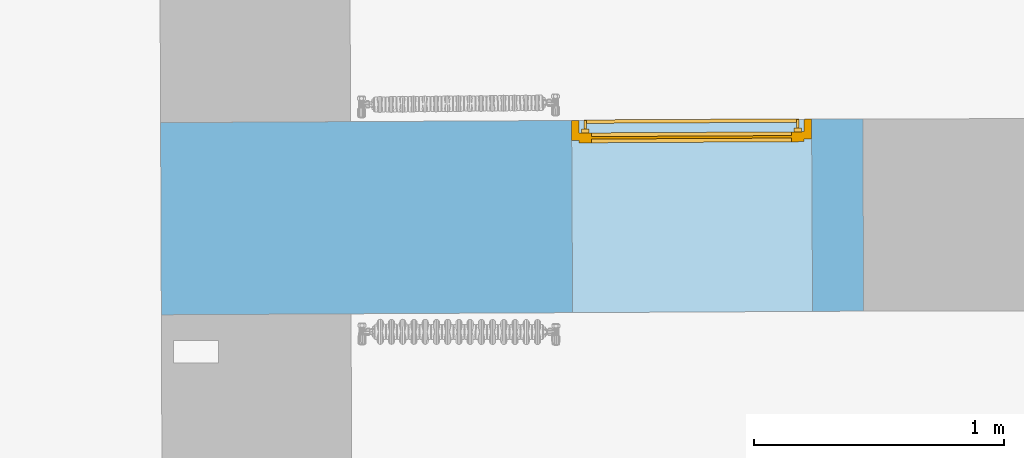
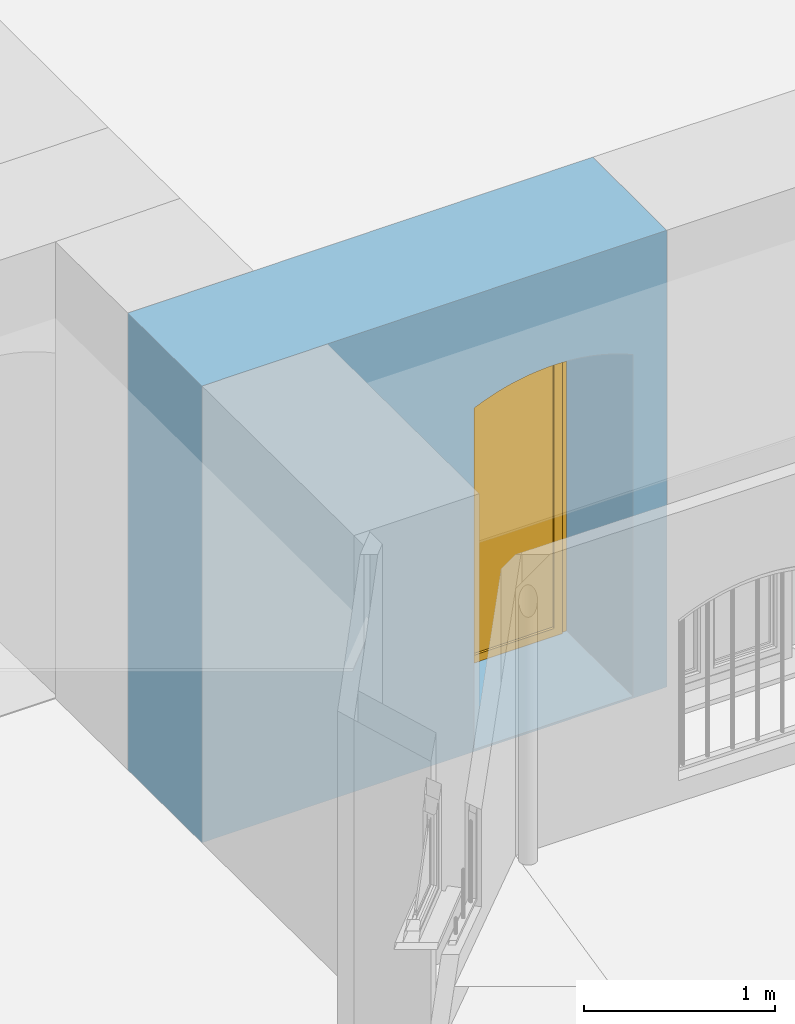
# One storey, part 94 of 133: 1 door, 1 opening, plus 1 element that does not belong to this part.
"""IFC2X3 building model written with IfcOpenShell, lengths in centimetres."""

import ifcopenshell
import ifcopenshell.guid

model = None  # the IFC model being written
_history = None  # IfcOwnerHistory: only IFC2X3 demands one
_inside = {}  # id of a spatial element -> (the spatial element, [elements in it])
_under = {}  # id of a project, library or spatial element -> (it, [spatial elements below it])
_declared = {}  # id of a project -> (the project, [libraries it declares])
_typed = {}  # id of a type object -> (the type object, [elements of that type])
_made_of = {}  # id of a material, layer set ... -> (it, [elements and type objects made of it])


def new_model(schema):
    """Start an empty IFC model of exactly this schema.

    Asked for "IFC4X3", IfcOpenShell would pick the latest addendum, in which some entities
    have other attributes; the version numbers below select the first issue.
    IFC2X3 requires an IfcOwnerHistory on every rooted entity: one is made here for all.
    """
    global model, _history
    if schema == "IFC4X3":
        model = ifcopenshell.file(schema_version=(4, 3, 0, 0))
    else:
        model = ifcopenshell.file(schema=schema)
    _inside.clear()
    _under.clear()
    _declared.clear()
    _typed.clear()
    _made_of.clear()
    _history = None
    if model.schema == "IFC2X3":
        org = make("IfcOrganization", Name="unknown")
        user = make(
            "IfcPersonAndOrganization",
            ThePerson=make("IfcPerson", FamilyName="unknown"),
            TheOrganization=org,
        )
        app = make(
            "IfcApplication",
            ApplicationDeveloper=org,
            Version="unknown",
            ApplicationFullName="unknown",
            ApplicationIdentifier="unknown",
        )
        _history = make(
            "IfcOwnerHistory",
            OwningUser=user,
            OwningApplication=app,
            ChangeAction="ADDED",
            CreationDate=0,
        )
    return model


def make(cls, **values):
    """One entity of the class cls with the attributes given. An attribute that is None is left unset."""
    return model.create_entity(
        cls, **{name: value for name, value in values.items() if value is not None}
    )


def entity(cls, *values):
    """Any entity or typed value of the class cls, its attributes in the order of the schema. None: left unset."""
    e = model.create_entity(cls)
    for i, value in enumerate(values):
        if value is not None:
            e[i] = value
    return e


def rooted(cls, **values):
    """An entity with a GlobalId (a new one), such as an element, a storey or a relation."""
    return make(cls, GlobalId=ifcopenshell.guid.new(), OwnerHistory=_history, **values)


def si_unit(unit_type, name, prefix=None):
    """IfcSIUnit, for example si_unit("LENGTHUNIT", "METRE", prefix="MILLI")."""
    return make("IfcSIUnit", UnitType=unit_type, Prefix=prefix, Name=name)


def converted_unit(unit_type, name, factor, base, dimensions=None, offset=None):
    """IfcConversionBasedUnit, such as the inch: factor (a typed value) times the base unit."""
    return make(
        "IfcConversionBasedUnit"
        if offset is None
        else "IfcConversionBasedUnitWithOffset",
        ConversionOffset=offset,
        Dimensions=None
        if dimensions is None
        else entity("IfcDimensionalExponents", *dimensions),
        UnitType=unit_type,
        Name=name,
        ConversionFactor=make(
            "IfcMeasureWithUnit", ValueComponent=factor, UnitComponent=base
        ),
    )


def assignment(units):
    """IfcUnitAssignment: the units of a project."""
    return None if units is None else make("IfcUnitAssignment", Units=units)


def point(xyz):
    """IfcCartesianPoint."""
    return None if xyz is None else make("IfcCartesianPoint", Coordinates=xyz)


def direction(xyz):
    """IfcDirection."""
    return None if xyz is None else make("IfcDirection", DirectionRatios=xyz)


def frame(location, z_axis=None, x_axis=None):
    """IfcAxis2Placement3D, a coordinate frame: its origin and axes. An axis left out is left unset."""
    return make(
        "IfcAxis2Placement3D",
        Location=point(location),
        Axis=direction(z_axis),
        RefDirection=direction(x_axis),
    )


def frame_2d(location, x_axis=None):
    """IfcAxis2Placement2D, a coordinate frame in the plane: its origin and x axis."""
    return make(
        "IfcAxis2Placement2D", Location=point(location), RefDirection=direction(x_axis)
    )


def origin():
    """The frame at (0, 0, 0) with its axes left unset."""
    return frame((0.0, 0.0, 0.0))


def origin_with_axes():
    """The frame at (0, 0, 0) with the z axis (0, 0, 1) and the x axis (1, 0, 0) written out."""
    return frame((0.0, 0.0, 0.0), z_axis=(0.0, 0.0, 1.0), x_axis=(1.0, 0.0, 0.0))


def place(relative_to, where):
    """IfcLocalPlacement: puts the frame where relative to a parent placement (None: the world)."""
    return make(
        "IfcLocalPlacement", PlacementRelTo=relative_to, RelativePlacement=where
    )


def context(
    kind, dimensions, precision=None, world=None, true_north=None, identifier=None
):
    """IfcGeometricRepresentationContext, for example the 3D "Model" context."""
    return make(
        "IfcGeometricRepresentationContext",
        ContextIdentifier=identifier,
        ContextType=kind,
        CoordinateSpaceDimension=dimensions,
        Precision=precision,
        WorldCoordinateSystem=world,
        TrueNorth=true_north,
    )


def subcontext(parent, identifier, kind, view, scale=None):
    """IfcGeometricRepresentationSubContext, for example "Body" below "Model"."""
    return make(
        "IfcGeometricRepresentationSubContext",
        ContextIdentifier=identifier,
        ContextType=kind,
        ParentContext=parent,
        TargetScale=scale,
        TargetView=view,
    )


def project(units=None, contexts=None):
    """IfcProject with its units and contexts."""
    return rooted(
        "IfcProject",
        Name="project",
        RepresentationContexts=contexts,
        UnitsInContext=assignment(units),
    )


def spatial(cls, under=None, at=None, **own):
    """A site, building, storey or space (cls), placed at a placement, below another one or the project."""
    s = rooted(cls, ObjectPlacement=at, **own)
    if under is not None:
        _under.setdefault(under.id(), (under, []))[1].append(s)
    return s


def polyline(points):
    """IfcPolyline through the points."""
    return make("IfcPolyline", Points=[point(p) for p in points])


def circle_curve(where, radius):
    """IfcCircle in the frame where."""
    return make("IfcCircle", Position=where, Radius=radius)


def trimmed(basis, trim1, trim2, sense, master):
    """IfcTrimmedCurve: the piece of a basis curve between two trims."""
    return make(
        "IfcTrimmedCurve",
        BasisCurve=basis,
        Trim1=trim1,
        Trim2=trim2,
        SenseAgreement=sense,
        MasterRepresentation=master,
    )


def segment(curve, same_sense, transition):
    """IfcCompositeCurveSegment."""
    return make(
        "IfcCompositeCurveSegment",
        Transition=transition,
        SameSense=same_sense,
        ParentCurve=curve,
    )


def composite_curve(segments, self_intersect=None):
    """IfcCompositeCurve: segments joined end to end."""
    return make("IfcCompositeCurve", Segments=segments, SelfIntersect=self_intersect)


def outline(outer, holes=None, kind="AREA"):
    """IfcArbitraryClosedProfileDef: a profile drawn as a closed curve; with holes, ...WithVoids."""
    if holes is None:
        return make("IfcArbitraryClosedProfileDef", ProfileType=kind, OuterCurve=outer)
    return make(
        "IfcArbitraryProfileDefWithVoids",
        ProfileType=kind,
        OuterCurve=outer,
        InnerCurves=holes,
    )


def extrude(swept, where, along, depth):
    """IfcExtrudedAreaSolid: the profile swept, set in the frame where, extruded along a direction by depth."""
    return make(
        "IfcExtrudedAreaSolid",
        SweptArea=swept,
        Position=where,
        ExtrudedDirection=direction(along),
        Depth=depth,
    )


def faces_of(points, faces, orient=None, outer=None):
    """IfcFace entities. A face is a list of loops; a loop is a list of indices into points, from 0.

    orient and outer hold one flag for each loop. By default every Orientation is true, the
    first loop of a face is its IfcFaceOuterBound and the others are IfcFaceBound.
    """
    made = []
    for i, loops in enumerate(faces):
        bounds = []
        for j, loop in enumerate(loops):
            is_outer = j == 0 if outer is None else outer[i][j]
            bounds.append(
                make(
                    "IfcFaceOuterBound" if is_outer else "IfcFaceBound",
                    Bound=make("IfcPolyLoop", Polygon=[points[k] for k in loop]),
                    Orientation=True if orient is None else orient[i][j],
                )
            )
        made.append(make("IfcFace", Bounds=bounds))
    return made


def faceted_brep(points, faces, orient=None, outer=None, voids=None):
    """IfcFacetedBrep: a solid bounded by flat faces; with voids (closed shells), ...WithVoids."""
    shared = [point(p) for p in points]
    hull = make("IfcClosedShell", CfsFaces=faces_of(shared, faces, orient, outer))
    if voids is None:
        return make("IfcFacetedBrep", Outer=hull)
    return make(
        "IfcFacetedBrepWithVoids",
        Outer=hull,
        Voids=[
            make(cls, CfsFaces=faces_of(shared, fs, o, b)) for cls, fs, o, b in voids
        ],
    )


def shape(context_of_items, identifier, shape_type, items):
    """IfcShapeRepresentation: the items that make up one representation, for example the "Body"."""
    return make(
        "IfcShapeRepresentation",
        ContextOfItems=context_of_items,
        RepresentationIdentifier=identifier,
        RepresentationType=shape_type,
        Items=items,
    )


def source(mapping_origin, context_of_items, identifier, shape_type, items):
    """IfcRepresentationMap: a shape defined once, which mapped items show again and again."""
    return make(
        "IfcRepresentationMap",
        MappingOrigin=mapping_origin,
        MappedRepresentation=shape(context_of_items, identifier, shape_type, items),
    )


def transform(
    local_origin,
    x_axis=None,
    y_axis=None,
    z_axis=None,
    scale=None,
    scale2=None,
    scale3=None,
    uniform=True,
):
    """IfcCartesianTransformationOperator3D, or its non-uniform kind. x_axis, y_axis, z_axis: its Axis1, 2, 3."""
    if uniform:
        return make(
            "IfcCartesianTransformationOperator3D",
            Axis1=direction(x_axis),
            Axis2=direction(y_axis),
            LocalOrigin=point(local_origin),
            Scale=scale,
            Axis3=direction(z_axis),
        )
    return make(
        "IfcCartesianTransformationOperator3DnonUniform",
        Axis1=direction(x_axis),
        Axis2=direction(y_axis),
        LocalOrigin=point(local_origin),
        Scale=scale,
        Axis3=direction(z_axis),
        Scale2=scale2,
        Scale3=scale3,
    )


def mapped(mapping_source, mapping_target):
    """IfcMappedItem: shows the shape of a source again, moved by a transform."""
    return make(
        "IfcMappedItem", MappingSource=mapping_source, MappingTarget=mapping_target
    )


def material(Name=None, Category=None):
    """IfcMaterial."""
    return make("IfcMaterial", Name=Name, Category=Category)


def material_list(materials):
    """IfcMaterialList."""
    return make("IfcMaterialList", Materials=materials)


def layer(
    of_material, thickness, ventilated=None, Name=None, Category=None, Priority=None
):
    """IfcMaterialLayer: one layer of a wall or slab, of a material (None: an air gap)."""
    return make(
        "IfcMaterialLayer",
        Material=of_material,
        LayerThickness=thickness,
        IsVentilated=ventilated,
        Name=Name,
        Category=Category,
        Priority=Priority,
    )


def layer_set(layers, Name=None):
    """IfcMaterialLayerSet."""
    return make("IfcMaterialLayerSet", MaterialLayers=layers, LayerSetName=Name)


def layer_usage(for_layer_set, set_direction, sense, offset, extent=None):
    """IfcMaterialLayerSetUsage: how a layer set lies in its element."""
    return make(
        "IfcMaterialLayerSetUsage",
        ForLayerSet=for_layer_set,
        LayerSetDirection=set_direction,
        DirectionSense=sense,
        OffsetFromReferenceLine=offset,
        ReferenceExtent=extent,
    )


def made_of(thing, what):
    """Note that an element or type object is made of a material, layer set ...; save() writes the relation."""
    if what is not None:
        _made_of.setdefault(what.id(), (what, []))[1].append(thing)
    return thing


def type_object(cls, material=None, **own):
    """A type object (cls), such as IfcWallType, which elements share."""
    return made_of(rooted(cls, **own), material)


def element(
    cls,
    number,
    at=None,
    inside=None,
    cuts=None,
    type_object=None,
    material=None,
    context=None,
    identifier="Body",
    shape_type=None,
    held_by="IfcProductDefinitionShape",
    body=None,
    shapes=None,
    **own,
):
    """One element of the class cls, such as IfcWall. Its Tag is "e" and its number.

    at: its placement. inside: the storey or other place that contains it. cuts: it is an
    opening in that element (IfcRelVoidsElement). A single representation is given by context,
    identifier, shape_type and body (its items); several are given by shapes. held_by: the class
    of the entity that holds the representations. save() writes the other relations.
    """
    e = rooted(cls, Tag="e%d" % number, ObjectPlacement=at, **own)
    if body is not None:
        shapes = [shape(context, identifier, shape_type, body)]
    if shapes is not None:
        e.Representation = make(held_by, Representations=shapes)
    if inside is not None:
        _inside.setdefault(inside.id(), (inside, []))[1].append(e)
    if cuts is not None:
        rooted(
            "IfcRelVoidsElement", RelatingBuildingElement=cuts, RelatedOpeningElement=e
        )
    if type_object is not None:
        _typed.setdefault(type_object.id(), (type_object, []))[1].append(e)
    return made_of(e, material)


def fill(opening, filler):
    """IfcRelFillsElement: the door or window that sits in an opening."""
    return rooted(
        "IfcRelFillsElement",
        RelatingOpeningElement=opening,
        RelatedBuildingElement=filler,
    )


def aggregate(whole, parts):
    """IfcRelAggregates: a whole, such as a stair, and the parts it consists of."""
    return rooted("IfcRelAggregates", RelatingObject=whole, RelatedObjects=parts)


def save(model, path):
    """Write the relations noted so far, then the file.

    IfcRelAggregates (storeys below a building ...), IfcRelContainedInSpatialStructure (elements
    in a storey), IfcRelDefinesByType, IfcRelAssociatesMaterial and IfcRelDeclares: one each for
    every whole, place, type object, material and project.
    """
    for whole, parts in _under.values():
        aggregate(whole, parts)
    for where, things in _inside.values():
        rooted(
            "IfcRelContainedInSpatialStructure",
            RelatedElements=things,
            RelatingStructure=where,
        )
    for kind, things in _typed.values():
        rooted("IfcRelDefinesByType", RelatedObjects=things, RelatingType=kind)
    for what, things in _made_of.values():
        rooted("IfcRelAssociatesMaterial", RelatedObjects=things, RelatingMaterial=what)
    for by, libraries in _declared.values():
        rooted("IfcRelDeclares", RelatingContext=by, RelatedDefinitions=libraries)
    model.write(path)


model = new_model("IFC2X3")

# Units and contexts
model_context = context("Model", 3, precision=0.0001, world=origin(), true_north=direction((0.225632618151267, 0.974212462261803, 0.0)))
body_context = subcontext(model_context, "Body", "Model", "MODEL_VIEW")
footprint_context = subcontext(model_context, "FootPrint", "Model", "MODEL_VIEW")
profile_context = subcontext(model_context, "Profile", "Model", "MODEL_VIEW")
ifc_project = project(units=[si_unit("LENGTHUNIT", "METRE", prefix="CENTI"), si_unit("AREAUNIT", "SQUARE_METRE", prefix="CENTI"), si_unit("VOLUMEUNIT", "CUBIC_METRE", prefix="CENTI"), converted_unit("PLANEANGLEUNIT", "DEGREE", entity("IfcRatioMeasure", 0.0174532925), si_unit("PLANEANGLEUNIT", "RADIAN"), dimensions=[0, 0, 0, 0, 0, 0, 0])], contexts=[model_context])

# Site, building, storey
site_placement = place(None, origin_with_axes())
site = spatial("IfcSite", under=ifc_project, at=site_placement, Name="Default Site", CompositionType="ELEMENT")
building_placement = place(site_placement, origin_with_axes())
building = spatial("IfcBuilding", under=site, at=building_placement, Name="Default Building", CompositionType="ELEMENT")
storey_placement = place(building_placement, frame((0.0, 0.0, -291.400371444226), z_axis=(0.0, 0.0, 1.0), x_axis=(1.0, 0.0, 0.0)))
storey = spatial("IfcBuildingStorey", under=building, at=storey_placement, Name="Rez-de-Jardin", CompositionType="ELEMENT", Elevation=-291.400371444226)

# Wall, opening, door
ifc_material_1 = material(Name="<aucun>")
ifc_layer = layer(ifc_material_1, 77.0)
ifc_layer_set = layer_set([ifc_layer], Name="default")
ifc_layer_usage = layer_usage(ifc_layer_set, "AXIS2", "POSITIVE", -38.5)
wall_type = type_object("IfcWallType", Name="default 770", PredefinedType="NOTDEFINED", material=ifc_layer_set)
wall_placement = place(storey_placement, frame((-641.069749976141, -714.825087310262, -1.94511073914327e-11), z_axis=(0.0, 0.0, 1.0), x_axis=(0.999986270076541, 0.0052401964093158, 0.0)))
wall = element("IfcWallStandardCase", 1, at=wall_placement, inside=storey, type_object=wall_type, material=ifc_layer_usage, Name="Enveloppe 53121", context=body_context, shape_type="SweptSolid", body=[
    extrude(outline(polyline([(-76.0000805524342, 38.4999999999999), (-76.0928380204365, -38.5), (205.202580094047, -38.4967732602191), (205.461895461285, 38.5027901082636), (-76.0000805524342, 38.4999999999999)])), frame((0.0, 0.0, 1.33226762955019e-13), z_axis=(0.0, 0.0, 1.0), x_axis=(1.0, 0.0, 0.0)), (0.0, 0.0, 1.0), 291.413221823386),
])
opening_placement = place(wall_placement, frame((88.6864367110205, 1.13686837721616e-13, 1.31164938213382), z_axis=(0.0, 0.0, 1.0), x_axis=(-1.0, -3.49546780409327e-16, 0.0)))
cartesian_point_1 = entity("IfcCartesianPoint", [0.0, 0.0, 218.0])
cartesian_point_2 = entity("IfcCartesianPoint", [-96.1394083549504, 0.0, 218.0])
cartesian_point_3 = entity("IfcCartesianPoint", [-96.1394083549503, -38.5000000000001])
opening = element("IfcOpeningElement", 2, at=opening_placement, cuts=wall, Name="4294966327_12", ObjectType="Opening", shapes=[
    shape(body_context, "Body", "SweptSolid", [extrude(outline(composite_curve([segment(polyline([(0.0, 218.0), (0.0, 0.0), (96.1394083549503, 0.0), (96.1394083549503, 218.0)]), True, "CONTINUOUS"), segment(trimmed(circle_curve(frame_2d((48.0697041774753, 111.436495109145), x_axis=(1.0, 0.0)), 116.90370838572), [point((96.1394083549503, 218.0))], [point((0.0, 218.0))], True, "CARTESIAN"), True, "CONTINUOUS")], self_intersect=False)), frame((0.0, -48.5, 0.0), z_axis=(0.0, 1.0, 0.0), x_axis=(-1.0, 0.0, 0.0)), (0.0, 0.0, 1.0), 97.0)]),
    shape(profile_context, "Profile", "GeometricCurveSet", [entity("IfcGeometricCurveSet", [entity("IfcCompositeCurve", [entity("IfcCompositeCurveSegment", "CONTINUOUS", True, entity("IfcPolyline", [cartesian_point_1, entity("IfcCartesianPoint", [0.0, 0.0, 0.0]), entity("IfcCartesianPoint", [-96.1394083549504, 0.0, 0.0]), cartesian_point_2])), entity("IfcCompositeCurveSegment", "CONTINUOUS", True, entity("IfcTrimmedCurve", entity("IfcCircle", entity("IfcAxis2Placement3D", entity("IfcCartesianPoint", [-48.0697041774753, 0.0, 111.436495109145]), entity("IfcDirection", [0.0, 1.0, 0.0]), entity("IfcDirection", [1.0, 0.0, 0.0])), 116.90370838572), [cartesian_point_2], [cartesian_point_1], True, "CARTESIAN"))], False)])]),
    shape(footprint_context, "FootPrint", "GeometricCurveSet", [entity("IfcGeometricCurveSet", [entity("IfcPolyline", [cartesian_point_3, entity("IfcCartesianPoint", [0.0, -38.5000000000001]), entity("IfcCartesianPoint", [0.0, 38.5]), entity("IfcCartesianPoint", [-96.1394083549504, 38.5]), cartesian_point_3])])]),
])
ifc_material_2 = material(Name="Jaune pastel")
ifc_material_3 = material(Name="Aluminium satiné")
ifc_material_4 = material(Name="Blanc trafic")
ifc_material_list = material_list([ifc_material_2, ifc_material_3, ifc_material_4])
door_style = type_object("IfcDoorStyle", Name="Porte de Secours_1VB[1P plein]_IMP arc", ConstructionType="NOTDEFINED", OperationType="NOTDEFINED", ParameterTakesPrecedence=False, Sizeable=False, material=ifc_material_list)
shared_shape = source(origin_with_axes(), body_context, "Body", "Brep", [
    faceted_brep([(48.069703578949, 0.0, -3.99999991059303), (48.069703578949, 0.0, 3.99999991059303), (45.0697034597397, 0.0, 3.99999991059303), (45.0697034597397, 0.0, -3.99999991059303), (45.0697034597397, 215.960502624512, 3.99999991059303), (45.0697034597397, 215.960502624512, -3.99999991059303), (48.069703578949, 218.00000667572, 3.99999991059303), (48.069703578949, 218.00000667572, -3.99999991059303), (36.8645404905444, 219.206160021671, 3.99999991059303), (36.8645404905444, 219.206160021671, -3.99999991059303), (37.8365904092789, 222.047829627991, 3.99999991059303), (36.8645429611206, 219.206166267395, 3.99999991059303), (37.8365959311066, 222.047843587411, -3.99999991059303), (37.8365959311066, 222.047843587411, 3.99999991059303), (36.8645429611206, 219.206166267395, -3.99999991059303), (37.8365904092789, 222.047829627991, -3.99999991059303), (26.5676561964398, 222.195044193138, 3.99999991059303), (26.5676561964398, 222.195044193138, -3.99999991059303), (27.2681951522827, 225.115537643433, 3.99999991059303), (26.5676587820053, 222.195053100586, 3.99999991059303), (27.2681899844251, 225.115519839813, -3.99999991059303), (27.2681899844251, 225.115519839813, 3.99999991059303), (26.5676587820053, 222.195053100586, -3.99999991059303), (27.2681951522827, 225.115537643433, -3.99999991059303), (16.0353528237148, 224.202474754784, 3.99999991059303), (16.0353528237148, 224.202474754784, -3.99999991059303), (16.4581716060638, 227.175879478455, 3.99999991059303), (16.0353511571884, 224.202466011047, 3.99999991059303), (16.4581737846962, 227.175890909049, -3.99999991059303), (16.4581737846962, 227.175890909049, 3.99999991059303), (16.0353511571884, 224.202466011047, -3.99999991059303), (16.4581716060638, 227.175879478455, -3.99999991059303), (5.36095209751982, 225.210643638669, 3.99999991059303), (5.36095209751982, 225.210643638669, -3.99999991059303), (5.50231002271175, 228.210639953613, 3.99999991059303), (5.36095201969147, 225.210642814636, 3.99999991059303), (5.50231009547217, 228.210640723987, -3.99999991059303), (5.50231009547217, 228.210640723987, 3.99999991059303), (5.36095201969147, 225.210642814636, -3.99999991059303), (5.50231002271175, 228.210639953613, -3.99999991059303), (-5.36095201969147, 225.210642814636, 3.99999991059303), (-5.36095201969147, 225.210642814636, -3.99999991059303), (-5.50231002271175, 228.210639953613, 3.99999991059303), (-5.50231002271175, 228.210639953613, -3.99999991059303), (-16.0353510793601, 224.202465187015, 3.99999991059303), (-16.0353510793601, 224.202465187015, -3.99999991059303), (-16.4581716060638, 227.175879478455, 3.99999991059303), (-16.0353511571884, 224.202466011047, 3.99999991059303), (-16.4581715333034, 227.175878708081, -3.99999991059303), (-16.4581715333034, 227.175878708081, 3.99999991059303), (-16.0353511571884, 224.202466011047, -3.99999991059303), (-16.4581716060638, 227.175879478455, -3.99999991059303), (-26.5676571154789, 222.19504435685, 3.99999991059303), (-26.5676571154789, 222.19504435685, -3.99999991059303), (-27.2681951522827, 225.115537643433, 3.99999991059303), (-26.5676587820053, 222.195053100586, 3.99999991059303), (-27.2681929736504, 225.115526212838, -3.99999991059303), (-27.2681929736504, 225.115526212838, 3.99999991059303), (-26.5676587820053, 222.195053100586, -3.99999991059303), (-27.2681951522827, 225.115537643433, -3.99999991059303), (-36.8645455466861, 219.206175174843, 3.99999991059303), (-36.8645455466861, 219.206175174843, -3.99999991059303), (-37.8365904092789, 222.047829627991, 3.99999991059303), (-36.8645429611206, 219.206166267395, 3.99999991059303), (-37.8365955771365, 222.04784743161, -3.99999991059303), (-37.8365955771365, 222.04784743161, 3.99999991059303), (-36.8645429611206, 219.206166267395, -3.99999991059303), (-37.8365904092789, 222.047829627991, -3.99999991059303), (-45.0697059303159, 215.960508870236, 3.99999991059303), (-45.0697059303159, 215.960508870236, -3.99999991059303), (-48.069703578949, 218.00000667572, 3.99999991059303), (-45.0697034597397, 215.960502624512, 3.99999991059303), (-48.0696980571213, 217.9999927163, -3.99999991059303), (-48.0696980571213, 217.9999927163, 3.99999991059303), (-45.0697034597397, 215.960502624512, -3.99999991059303), (-48.069703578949, 218.00000667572, -3.99999991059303), (-45.0697034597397, 0.0, -3.99999991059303), (-45.0697034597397, 0.0, 3.99999991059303), (-48.069703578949, 0.0, 3.99999991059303), (-48.069703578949, 0.0, -3.99999991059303), (-45.0697034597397, 1.28418808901e-30, 3.99999991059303), (-45.0697034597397, 1.28418808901e-30, -3.99999991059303), (-48.069703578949, 5.65410615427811e-31, -3.99999991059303), (-48.069703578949, 5.65410615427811e-31, 3.99999991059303)], [[[0, 1, 2, 3]], [[3, 2, 4, 5]], [[2, 1, 6, 4]], [[1, 0, 7, 6]], [[0, 3, 5, 7]], [[5, 4, 8, 9]], [[4, 6, 10, 11]], [[6, 7, 12, 13]], [[7, 5, 14, 15]], [[14, 11, 16, 17]], [[11, 10, 18, 19]], [[10, 15, 20, 21]], [[15, 14, 22, 23]], [[22, 19, 24, 25]], [[19, 18, 26, 27]], [[18, 23, 28, 29]], [[23, 22, 30, 31]], [[30, 27, 32, 33]], [[27, 26, 34, 35]], [[26, 31, 36, 37]], [[31, 30, 38, 39]], [[38, 35, 40, 41]], [[35, 34, 42, 40]], [[34, 39, 43, 42]], [[39, 38, 41, 43]], [[41, 40, 44, 45]], [[40, 42, 46, 47]], [[42, 43, 48, 49]], [[43, 41, 50, 51]], [[50, 47, 52, 53]], [[47, 46, 54, 55]], [[46, 51, 56, 57]], [[51, 50, 58, 59]], [[58, 55, 60, 61]], [[55, 54, 62, 63]], [[54, 59, 64, 65]], [[59, 58, 66, 67]], [[66, 63, 68, 69]], [[63, 62, 70, 71]], [[62, 67, 72, 73]], [[67, 66, 74, 75]], [[76, 77, 78, 79]], [[74, 71, 80, 81]], [[71, 70, 78, 77]], [[70, 75, 82, 83]], [[75, 74, 76, 79]]]),
    faceted_brep([(-40.069705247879, 212.589716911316, 0.999999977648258), (-40.069705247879, 212.589716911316, 5.00000007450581), (-40.0697052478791, 5.00000007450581, 5.00000007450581), (-40.0697052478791, 5.00000007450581, 0.999999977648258), (-45.0697034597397, 216.044211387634, 5.00000007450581), (-45.0697034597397, 0.0, 5.00000007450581), (-40.069705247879, 5.00000007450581, 5.00000007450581), (-45.0697034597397, 216.044211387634, 0.999999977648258), (-45.0697034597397, 2.05390483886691e-29, 0.999999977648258), (-45.0697034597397, 2.05390483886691e-29, 5.00000007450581), (-40.069705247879, 5.00000007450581, 0.999999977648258), (-45.0697034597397, 0.0, 0.999999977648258), (40.069705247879, 5.0000000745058, 5.00000007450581), (40.069705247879, 5.0000000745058, 0.999999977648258), (45.0697034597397, 0.0, 5.00000007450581), (40.069705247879, 5.00000007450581, 5.00000007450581), (45.0697034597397, 0.0, 0.999999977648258), (40.069705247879, 5.00000007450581, 0.999999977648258), (40.069705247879, 212.589716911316, 5.00000007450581), (40.069705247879, 212.589716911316, 0.999999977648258), (45.0697034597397, 216.044211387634, 5.00000007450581), (45.0697034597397, 216.044211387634, 0.999999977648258), (33.8843774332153, 214.929265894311, 5.00000007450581), (33.8843774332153, 214.929265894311, 0.999999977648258), (35.4417443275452, 219.685912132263, 5.00000007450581), (33.8843792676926, 214.929270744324, 5.00000007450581), (35.4417426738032, 219.68590776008, 0.999999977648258), (35.4417426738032, 219.68590776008, 5.00000007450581), (33.8843792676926, 214.929270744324, 0.999999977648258), (35.4417443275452, 219.685912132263, 0.999999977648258), (24.4027557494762, 217.565715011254, 5.00000007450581), (24.4027557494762, 217.565715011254, 0.999999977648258), (25.5243331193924, 222.443532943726, 5.00000007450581), (24.4027525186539, 217.565703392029, 5.00000007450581), (25.5243325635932, 222.443530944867, 0.999999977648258), (25.5243325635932, 222.443530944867, 5.00000007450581), (24.4027525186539, 217.565703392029, 0.999999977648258), (25.5243331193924, 222.443532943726, 0.999999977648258), (14.7218283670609, 219.335387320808, 5.00000007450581), (14.7218283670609, 219.335387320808, 0.999999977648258), (15.3984621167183, 224.294567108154, 5.00000007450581), (14.7218286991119, 219.335389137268, 5.00000007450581), (15.398459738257, 224.294554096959, 0.999999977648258), (15.398459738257, 224.294554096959, 5.00000007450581), (14.7218286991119, 219.335389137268, 0.999999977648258), (15.3984621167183, 224.294567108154, 0.999999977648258), (4.92067253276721, 220.223859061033, 5.00000007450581), (4.92067253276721, 220.223859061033, 0.999999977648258), (5.14683239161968, 225.223851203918, 5.00000007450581), (4.92067225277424, 220.22385597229, 5.00000007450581), (5.14683428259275, 225.223872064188, 0.999999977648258), (5.14683428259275, 225.223872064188, 5.00000007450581), (4.92067225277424, 220.22385597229, 0.999999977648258), (5.14683239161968, 225.223851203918, 0.999999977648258), (-4.92067225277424, 220.22385597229, 5.00000007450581), (-4.92067225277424, 220.22385597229, 0.999999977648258), (-5.14683239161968, 225.223851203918, 5.00000007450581), (-5.14683239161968, 225.223851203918, 0.999999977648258), (-14.721828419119, 219.335386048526, 5.00000007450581), (-14.721828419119, 219.335386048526, 0.999999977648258), (-15.3984621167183, 224.294567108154, 5.00000007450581), (-14.7218286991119, 219.335389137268, 5.00000007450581), (-15.3984602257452, 224.294546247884, 0.999999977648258), (-15.3984602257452, 224.294546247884, 5.00000007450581), (-14.7218286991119, 219.335389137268, 0.999999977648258), (-15.3984621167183, 224.294567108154, 0.999999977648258), (-24.4027528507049, 217.565705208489, 5.00000007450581), (-24.4027528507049, 217.565705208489, 0.999999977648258), (-25.5243331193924, 222.443532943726, 5.00000007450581), (-24.4027525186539, 217.565703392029, 5.00000007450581), (-25.5243354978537, 222.443545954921, 0.999999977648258), (-25.5243354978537, 222.443545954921, 5.00000007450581), (-24.4027525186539, 217.565703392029, 0.999999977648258), (-25.5243331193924, 222.443532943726, 0.999999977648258), (-33.8843760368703, 214.929259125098, 5.00000007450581), (-33.8843760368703, 214.929259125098, 0.999999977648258), (-35.4417443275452, 219.685912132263, 5.00000007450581), (-33.8843792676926, 214.929270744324, 5.00000007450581), (-35.4417448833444, 219.685914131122, 0.999999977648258), (-35.4417448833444, 219.685914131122, 5.00000007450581), (-33.8843792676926, 214.929270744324, 0.999999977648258), (-35.4417443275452, 219.685912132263, 0.999999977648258), (-40.0697070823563, 212.589721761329, 5.00000007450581), (-40.0697070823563, 212.589721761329, 0.999999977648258), (-45.0697051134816, 216.044215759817, 0.999999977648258), (-45.0697051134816, 216.044215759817, 5.00000007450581)], [[[0, 1, 2, 3]], [[1, 4, 5, 6]], [[4, 7, 8, 9]], [[7, 0, 10, 11]], [[10, 6, 12, 13]], [[6, 5, 14, 15]], [[5, 11, 16, 14]], [[11, 10, 17, 16]], [[17, 15, 18, 19]], [[15, 14, 20, 18]], [[14, 16, 21, 20]], [[16, 17, 19, 21]], [[19, 18, 22, 23]], [[18, 20, 24, 25]], [[20, 21, 26, 27]], [[21, 19, 28, 29]], [[28, 25, 30, 31]], [[25, 24, 32, 33]], [[24, 29, 34, 35]], [[29, 28, 36, 37]], [[36, 33, 38, 39]], [[33, 32, 40, 41]], [[32, 37, 42, 43]], [[37, 36, 44, 45]], [[44, 41, 46, 47]], [[41, 40, 48, 49]], [[40, 45, 50, 51]], [[45, 44, 52, 53]], [[52, 49, 54, 55]], [[49, 48, 56, 54]], [[48, 53, 57, 56]], [[53, 52, 55, 57]], [[55, 54, 58, 59]], [[54, 56, 60, 61]], [[56, 57, 62, 63]], [[57, 55, 64, 65]], [[64, 61, 66, 67]], [[61, 60, 68, 69]], [[60, 65, 70, 71]], [[65, 64, 72, 73]], [[72, 69, 74, 75]], [[69, 68, 76, 77]], [[68, 73, 78, 79]], [[73, 72, 80, 81]], [[80, 77, 82, 83]], [[77, 76, 4, 1]], [[76, 81, 84, 85]], [[81, 80, 0, 7]]]),
    faceted_brep([(41.0697042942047, 113.022112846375, 0.999999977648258), (41.0697042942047, 103.022110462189, 0.999999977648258), (44.069704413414, 103.022110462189, 0.999999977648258), (44.069704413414, 113.022112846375, 0.999999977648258), (44.069704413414, 113.022112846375, -0.499999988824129), (44.069704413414, 103.022110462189, -0.499999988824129), (41.0697042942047, 103.022110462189, -0.499999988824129), (41.0697042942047, 113.022112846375, -0.499999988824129)], [[[0, 1, 2, 3]], [[4, 5, 6, 7]], [[3, 2, 5, 4]], [[2, 1, 6, 5]], [[1, 0, 7, 6]], [[0, 3, 4, 7]]]),
    faceted_brep([(42.0697033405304, 109.272110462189, -0.499999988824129), (42.0697033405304, 106.772112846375, -0.499999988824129), (43.0697053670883, 106.772112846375, -0.499999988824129), (43.0697053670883, 109.272110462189, -0.499999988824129), (43.0697053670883, 99.7721135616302, -3.95454540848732), (43.0697053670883, 99.7721135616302, -3.045454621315), (42.0697033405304, 99.7721135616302, -3.045454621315), (42.0697033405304, 99.7721135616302, -3.95454540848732), (42.0697033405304, 99.7721134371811, -3.04545427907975), (43.0697053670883, 99.7721134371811, -3.04545427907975), (43.0697053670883, 99.7721131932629, -3.95454439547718), (42.0697033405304, 99.7721131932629, -3.95454439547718)], [[[0, 1, 2, 3]], [[4, 5, 6, 7]], [[3, 2, 5, 4]], [[2, 1, 8, 9]], [[1, 0, 7, 6]], [[0, 3, 10, 11]]]),
    faceted_brep([(-44.069704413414, 113.022112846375, 0.999999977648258), (-44.069704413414, 103.022110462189, 0.999999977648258), (-41.0697042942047, 103.022110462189, 0.999999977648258), (-41.0697042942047, 113.022112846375, 0.999999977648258), (-41.0697042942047, 113.022112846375, -0.499999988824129), (-41.0697042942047, 103.022110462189, -0.499999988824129), (-44.069704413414, 103.022110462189, -0.499999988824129), (-44.069704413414, 113.022112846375, -0.499999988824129)], [[[0, 1, 2, 3]], [[4, 5, 6, 7]], [[3, 2, 5, 4]], [[2, 1, 6, 5]], [[1, 0, 7, 6]], [[0, 3, 4, 7]]]),
    faceted_brep([(-43.0697053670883, 109.272110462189, -0.499999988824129), (-43.0697053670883, 106.772112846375, -0.499999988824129), (-42.0697033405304, 106.772112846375, -0.499999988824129), (-42.0697033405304, 109.272110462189, -0.499999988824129), (-42.0697033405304, 99.7721135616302, -3.95454540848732), (-42.0697033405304, 99.7721135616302, -3.045454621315), (-43.0697053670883, 99.7721135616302, -3.045454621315), (-43.0697053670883, 99.7721135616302, -3.95454540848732), (-43.0697053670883, 99.7721134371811, -3.04545427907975), (-42.0697033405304, 99.7721134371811, -3.04545427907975), (-42.0697033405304, 99.7721131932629, -3.95454439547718), (-43.0697053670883, 99.7721131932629, -3.95454439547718)], [[[0, 1, 2, 3]], [[4, 5, 6, 7]], [[3, 2, 5, 4]], [[2, 1, 8, 9]], [[1, 0, 7, 6]], [[0, 3, 10, 11]]]),
    faceted_brep([(43.0697053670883, 96.7721104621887, -4.19999994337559), (43.0697053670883, 99.7721135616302, -4.19999994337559), (43.0697053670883, 99.7721135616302, -2.80000008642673), (43.0697053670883, 96.7721104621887, -2.80000008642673), (-43.0697053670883, 96.7721104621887, -2.80000008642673), (-43.0697053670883, 99.7721135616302, -2.80000008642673), (-43.0697053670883, 99.7721135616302, -4.19999994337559), (-43.0697053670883, 96.7721104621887, -4.19999994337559)], [[[0, 1, 2, 3]], [[4, 5, 6, 7]], [[3, 2, 5, 4]], [[2, 1, 6, 5]], [[1, 0, 7, 6]], [[0, 3, 4, 7]]]),
    faceted_brep([(-30.3673446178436, 216.020631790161, 2.5000000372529), (-20.3957319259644, 218.413281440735, 2.5000000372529), (-10.2432772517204, 219.857406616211, 2.5000000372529), (4.44089209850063e-14, 220.340204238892, 2.5000000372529), (10.2432772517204, 219.857406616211, 2.5000000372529), (20.3957319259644, 218.413281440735, 2.5000000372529), (30.3673446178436, 216.020631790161, 2.5000000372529), (40.069705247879, 212.70067691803, 2.5000000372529), (40.069705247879, 204.339694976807, 2.5000000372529), (-40.069705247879, 204.339694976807, 2.5000000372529), (-40.069705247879, 212.70067691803, 2.5000000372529), (-40.069705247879, 212.70067691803, 3.50000001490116), (-40.069705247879, 204.339694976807, 3.50000001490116), (40.069705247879, 204.339694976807, 3.50000001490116), (40.069705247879, 212.70067691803, 3.50000001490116), (30.3673446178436, 216.020631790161, 3.50000001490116), (20.3957319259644, 218.413281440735, 3.50000001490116), (10.2432772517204, 219.857406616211, 3.50000001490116), (4.44089209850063e-14, 220.340204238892, 3.50000001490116), (-10.2432772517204, 219.857406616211, 3.50000001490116), (-20.3957319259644, 218.413281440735, 3.50000001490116), (-30.3673446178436, 216.020631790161, 3.50000001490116), (-40.0697052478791, 204.339694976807, 2.5000000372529), (-40.0697052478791, 204.339694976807, 3.50000001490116), (30.3673423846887, 216.020625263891, 2.5000000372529), (30.3673423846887, 216.020625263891, 3.50000001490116), (20.3957304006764, 218.413275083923, 2.5000000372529), (20.3957304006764, 218.413275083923, 3.50000001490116), (10.2432771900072, 219.857406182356, 2.5000000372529), (10.2432771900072, 219.857406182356, 3.50000001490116), (1.99150728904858e-07, 220.340208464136, 2.5000000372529), (1.99150728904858e-07, 220.340208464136, 3.50000001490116), (-10.2432770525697, 219.857402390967, 2.5000000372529), (-10.2432770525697, 219.857402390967, 3.50000001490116), (-20.3957319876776, 218.41328187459, 2.5000000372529), (-20.3957319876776, 218.41328187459, 3.50000001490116), (-30.3673461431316, 216.020638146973, 2.5000000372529), (-30.3673461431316, 216.020638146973, 3.50000001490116), (-40.0697074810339, 212.7006834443, 2.5000000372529), (-40.0697074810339, 212.7006834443, 3.50000001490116)], [[[0, 1, 2, 3, 4, 5, 6, 7, 8, 9, 10]], [[11, 12, 13, 14, 15, 16, 17, 18, 19, 20, 21]], [[10, 22, 23, 11]], [[9, 8, 13, 12]], [[8, 7, 14, 13]], [[7, 24, 25, 14]], [[6, 26, 27, 15]], [[5, 28, 29, 16]], [[4, 30, 31, 17]], [[3, 32, 33, 18]], [[2, 34, 35, 19]], [[1, 36, 37, 20]], [[0, 38, 39, 21]]]),
    faceted_brep([(40.069705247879, 202.339696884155, 5.00000007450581), (40.069705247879, 202.339696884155, 0.999999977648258), (40.069705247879, 204.339694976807, 0.999999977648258), (40.069705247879, 204.339694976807, 5.00000007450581), (-40.069705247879, 204.339694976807, 5.00000007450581), (-40.069705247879, 204.339694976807, 0.999999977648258), (-40.069705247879, 202.339696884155, 0.999999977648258), (-40.069705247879, 202.339696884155, 5.00000007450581)], [[[0, 1, 2, 3]], [[4, 5, 6, 7]], [[3, 2, 5, 4]], [[2, 1, 6, 5]], [[1, 0, 7, 6]], [[0, 3, 4, 7]]]),
    faceted_brep([(40.069705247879, 202.339696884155, 2.5000000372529), (40.069705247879, 5.00000007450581, 2.5000000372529), (-40.069705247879, 5.00000007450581, 2.5000000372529), (-40.069705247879, 202.339696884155, 2.5000000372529), (-40.069705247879, 202.339696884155, 3.50000001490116), (-40.069705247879, 5.00000007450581, 3.50000001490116), (40.069705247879, 5.00000007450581, 3.50000001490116), (40.069705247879, 202.339696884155, 3.50000001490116), (-40.0697052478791, 5.00000007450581, 2.5000000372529), (-40.0697052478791, 5.00000007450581, 3.50000001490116)], [[[0, 1, 2, 3]], [[4, 5, 6, 7]], [[3, 8, 9, 4]], [[2, 1, 6, 5]], [[1, 0, 7, 6]], [[0, 3, 4, 7]]]),
])
door_placement = place(opening_placement, frame((-96.1394083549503, -38.5000000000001, 0.0), z_axis=(0.0, 0.0, 1.0), x_axis=(1.0, 0.0, 0.0)))
door = element("IfcDoor", 3, at=door_placement, inside=storey, type_object=door_style, material=ifc_material_list, Name="Porte 74102", OverallHeight=228.340203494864, OverallWidth=96.1394083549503, context=body_context, shape_type="MappedRepresentation", body=[
    mapped(shared_shape, transform((48.0697041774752, 4.0, 4.44089209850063e-14), x_axis=(-1.0, 0.0, 0.0), y_axis=(0.0, 0.0, 1.0), z_axis=(0.0, 1.0, 0.0), scale=1.0, scale2=1.0, scale3=1.0, uniform=False)),
])
fill(opening, door)

save(model, "model.ifc")
